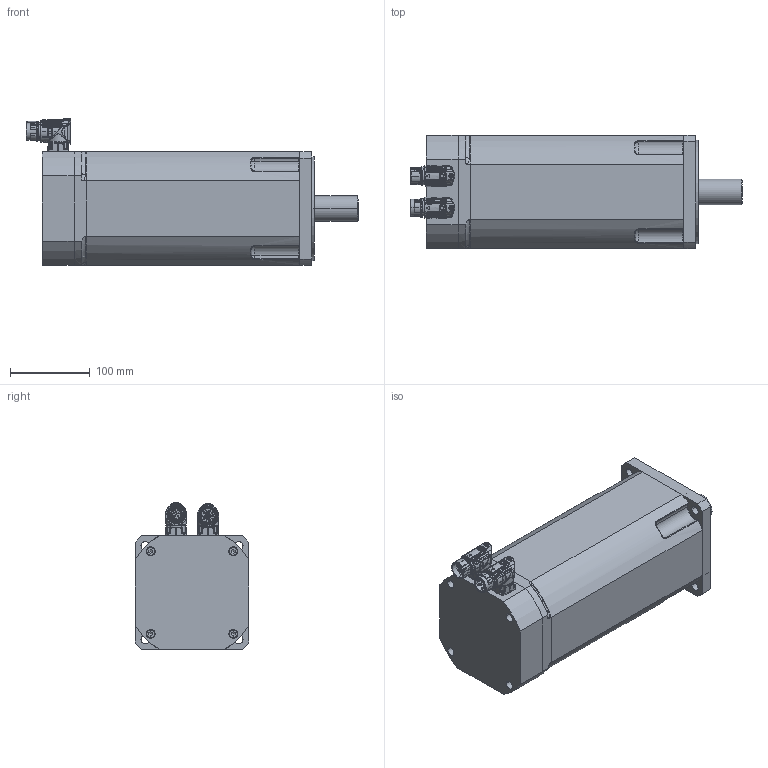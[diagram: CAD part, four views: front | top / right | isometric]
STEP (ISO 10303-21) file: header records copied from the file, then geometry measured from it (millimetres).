
FILE_DESCRIPTION(('CATIA V5 STEP Exchange'),'2;1');
FILE_NAME('C:\Documents and Settings\max\Documenti\sangallimotori\3d step\tg5\motore_DSM5_54.stp','2010-12-12T19:50:01+00:00',('none'),('none'),'CATIA Version 5 Release 10 (IN-8)','CATIA V5 STEP AP203',' none');
FILE_SCHEMA(('CONFIG_CONTROL_DESIGN'));
Assembly tree (27 placements, depth 0):
Bounding box: 415.31 x 142 x 183.43 mm (x, y, z)
Volume: 6175581 mm3; surface area: 365046.3 mm2
Topology: 23 solids, 28 shells, 4112 faces, 13934 edges, 9842 vertices
Faces by surface type: cylinder 1486, bspline 1334, plane 590, torus 360, cone 233, sphere 109
Entity records: 255963 total; most frequent: CARTESIAN_POINT 165446, ORIENTED_EDGE 25592, EDGE_CURVE 12853, VERTEX_POINT 9238, DIRECTION 8836, B_SPLINE_CURVE_WITH_KNOTS 7940, AXIS2_PLACEMENT_3D 4425, EDGE_LOOP 3856
